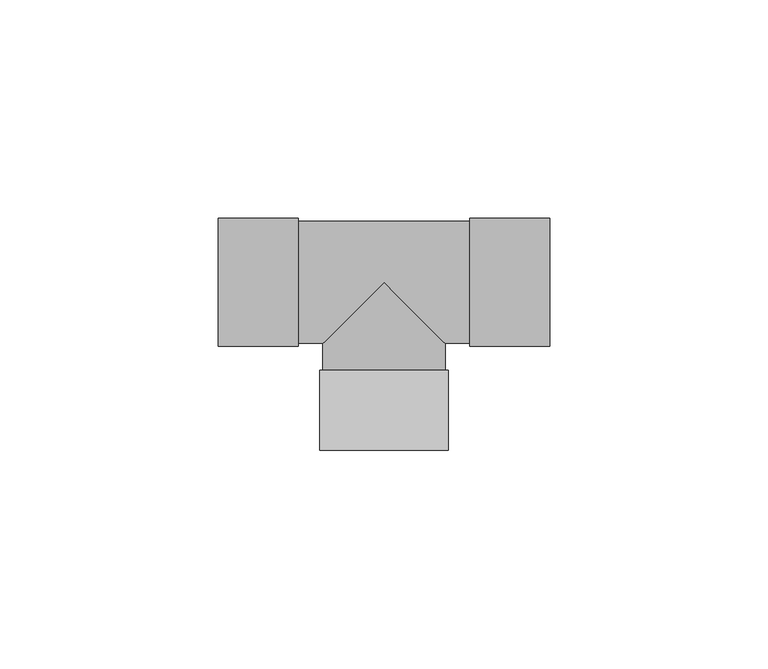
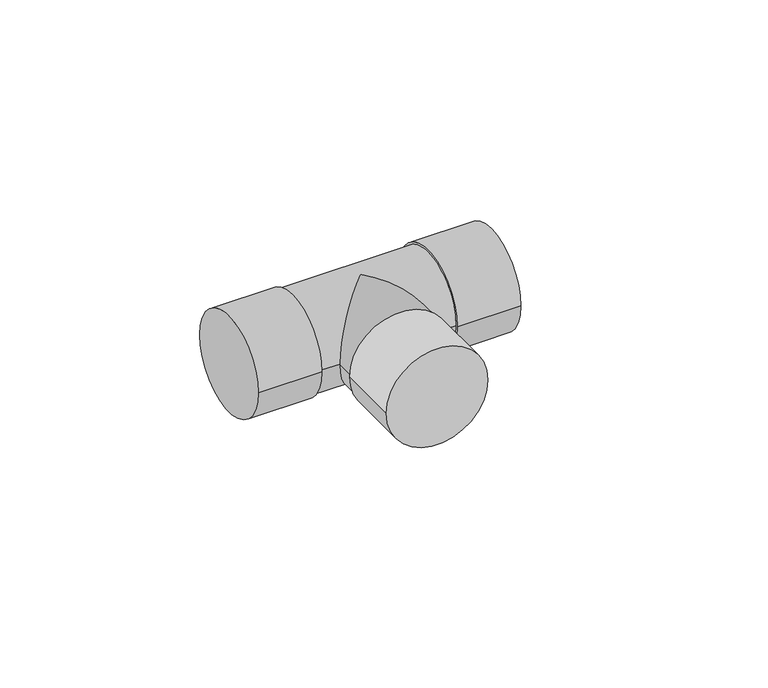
"""IFC4 building model written with IfcOpenShell, lengths in millimetres: pipe fitting geometry, Tê - Soldado - CU : Padrão."""

from ifc_helpers import new_model, si_unit, frame, origin, place, context, project, spatial, circle_curve, ellipse_curve, source, transform, mapped, element, save
from ifc_brep_helpers import plane_surface, cylinder_surface, advanced_brep


def pipe_fitting_ae0032d9(model_context):
    return source(origin(), model_context, "Body", "AdvancedBrep", [
        advanced_brep(
        [(14.7, -38.5, 0.0), (-14.7, -38.5, 0.0), (14.7, -20.1, 0.0), (-14.7, -20.1, 0.0), (14.0, -20.1, 0.0), (-14.0, -20.1, 0.0), (-38.0, -14.7, 0.0), (-38.0, 14.7, 0.0), (-19.6, -14.7, 0.0), (-19.6, 14.7, 0.0), (-19.6, -14.0, 0.0), (-19.6, 14.0, 0.0), (19.6, 14.0, 0.0), (-14.0, -14.0, 0.0), (0.0, 0.0, 14.0), (14.0, -14.0, 0.0), (19.6, -14.0, 0.0), (0.0, 0.0, -14.0), (19.6, -14.7, 0.0), (19.6, 14.7, 0.0), (38.0, -14.7, 0.0), (38.0, 14.7, 0.0)],
        [
            (0, 1, circle_curve(frame((0.0, -38.5, 0.0), z_axis=(0.0, -1.0, 0.0), x_axis=(-1.0, 0.0, 0.0)), 14.7)),
            (1, 0, circle_curve(frame((0.0, -38.5, 0.0), z_axis=(0.0, -1.0, 0.0), x_axis=(-1.0, 0.0, 0.0)), 14.7)),
            (2, 3, circle_curve(frame((0.0, -20.1, 0.0), z_axis=(0.0, 1.0, 0.0), x_axis=(-1.0, 0.0, 0.0)), 14.7)),
            (3, 2, circle_curve(frame((0.0, -20.1, 0.0), z_axis=(0.0, 1.0, 0.0), x_axis=(-1.0, 0.0, 0.0)), 14.7)),
            (4, 5, circle_curve(frame((0.0, -20.1, 0.0), z_axis=(0.0, -1.0, 0.0), x_axis=(1.0, 0.0, 0.0)), 14.0)),
            (5, 4, circle_curve(frame((0.0, -20.1, 0.0), z_axis=(0.0, -1.0, 0.0), x_axis=(1.0, 0.0, 0.0)), 14.0)),
            (0, 2),
            (3, 1),
            (6, 7, circle_curve(frame((-38.0, 0.0, 0.0), z_axis=(-1.0, 0.0, 0.0), x_axis=(0.0, 1.0, 0.0)), 14.7)),
            (7, 6, circle_curve(frame((-38.0, 0.0, 0.0), z_axis=(-1.0, 0.0, 0.0), x_axis=(0.0, 1.0, 0.0)), 14.7)),
            (8, 9, circle_curve(frame((-19.6, 0.0, 0.0), z_axis=(1.0, 0.0, 0.0), x_axis=(0.0, 1.0, 0.0)), 14.7)),
            (9, 8, circle_curve(frame((-19.6, 0.0, 0.0), z_axis=(1.0, 0.0, 0.0), x_axis=(0.0, 1.0, 0.0)), 14.7)),
            (10, 11, circle_curve(frame((-19.6, 0.0, 0.0), z_axis=(-1.0, 0.0, 0.0), x_axis=(0.0, 1.0, 0.0)), 14.0)),
            (11, 10, circle_curve(frame((-19.6, 0.0, 0.0), z_axis=(-1.0, 0.0, 0.0), x_axis=(0.0, 1.0, 0.0)), 14.0)),
            (6, 8),
            (9, 7),
            (12, 11),
            (10, 13),
            (13, 14, ellipse_curve(frame((0.0, 0.0, 0.0), z_axis=(-0.7071067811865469, 0.7071067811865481, 0.0), x_axis=(-0.707106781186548, -0.7071067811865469, 0.0)), 19.7989899, 14.0)),
            (14, 15, ellipse_curve(frame((0.0, 0.0, 0.0), z_axis=(0.7071067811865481, 0.7071067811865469, 0.0), x_axis=(-0.707106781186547, 0.7071067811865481, 0.0)), 19.7989899, 14.0)),
            (15, 16),
            (16, 12, circle_curve(frame((19.6, 0.0, 0.0), z_axis=(-1.0, 0.0, 0.0), x_axis=(0.0, 1.0, 0.0)), 14.0)),
            (12, 16, circle_curve(frame((19.6, 0.0, 0.0), z_axis=(-1.0, 0.0, 0.0), x_axis=(0.0, 1.0, 0.0)), 14.0)),
            (15, 17, ellipse_curve(frame((0.0, 0.0, 0.0), z_axis=(0.7071067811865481, 0.7071067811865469, 0.0), x_axis=(-0.707106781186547, 0.7071067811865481, 0.0)), 19.7989899, 14.0)),
            (17, 13, ellipse_curve(frame((0.0, 0.0, 0.0), z_axis=(-0.7071067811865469, 0.7071067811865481, 0.0), x_axis=(-0.707106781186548, -0.7071067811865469, 0.0)), 19.7989899, 14.0)),
            (18, 19, circle_curve(frame((19.6, 0.0, 0.0), z_axis=(-1.0, 0.0, 0.0), x_axis=(0.0, 1.0, 0.0)), 14.7)),
            (19, 18, circle_curve(frame((19.6, 0.0, 0.0), z_axis=(-1.0, 0.0, 0.0), x_axis=(0.0, 1.0, 0.0)), 14.7)),
            (20, 21, circle_curve(frame((38.0, 0.0, 0.0), z_axis=(1.0, 0.0, 0.0), x_axis=(0.0, 1.0, 0.0)), 14.7)),
            (21, 20, circle_curve(frame((38.0, 0.0, 0.0), z_axis=(1.0, 0.0, 0.0), x_axis=(0.0, 1.0, 0.0)), 14.7)),
            (18, 20),
            (21, 19),
            (4, 15),
            (13, 5),
        ],
        [
            plane_surface(frame((0.0, -38.5, 0.0), z_axis=(0.0, -1.0, 0.0), x_axis=(0.0, 0.0, 1.0))),
            plane_surface(frame((0.0, -20.1, 0.0), z_axis=(0.0, 1.0, 0.0), x_axis=(0.0, 0.0, 1.0))),
            cylinder_surface(frame((0.0, -38.5, 0.0), z_axis=(0.0, -1.0, 0.0), x_axis=(-1.0, 0.0, 0.0)), 14.7),
            plane_surface(frame((-38.0, 0.0, 0.0), z_axis=(-1.0, 0.0, 0.0), x_axis=(0.0, 0.0, 1.0))),
            plane_surface(frame((-19.6, 0.0, 0.0), z_axis=(1.0, 0.0, 0.0), x_axis=(0.0, 0.0, 1.0))),
            cylinder_surface(frame((-38.0, 0.0, 0.0), z_axis=(-1.0, 0.0, 0.0), x_axis=(0.0, 1.0, 0.0)), 14.7),
            cylinder_surface(frame((-19.6, 0.0, 0.0), z_axis=(-1.0, 0.0, 0.0), x_axis=(0.0, 1.0, 0.0)), 14.0),
            plane_surface(frame((19.6, 0.0, 0.0), z_axis=(-1.0, 0.0, 0.0), x_axis=(0.0, 0.0, 1.0))),
            plane_surface(frame((38.0, 0.0, 0.0), z_axis=(1.0, 0.0, 0.0), x_axis=(0.0, 0.0, 1.0))),
            cylinder_surface(frame((19.6, 0.0, 0.0), z_axis=(-1.0, 0.0, 0.0), x_axis=(0.0, 1.0, 0.0)), 14.7),
            cylinder_surface(frame((0.0, 0.0, 0.0), z_axis=(0.0, 1.0, 0.0), x_axis=(1.0, 0.0, 0.0)), 14.0),
        ],
        [
            (0, [[1, 2]]),
            (1, [[3, 4], [5, 6]]),
            (2, [[-1, 7, -4, 8]]),
            (2, [[-2, -8, -3, -7]]),
            (3, [[9, 10]]),
            (4, [[11, 12], [13, 14]]),
            (5, [[-9, 15, -12, 16]]),
            (5, [[-10, -16, -11, -15]]),
            (6, [[17, -13, 18, 19, 20, 21, 22]]),
            (6, [[-17, 23, -21, 24, 25, -18, -14]]),
            (7, [[26, 27], [-22, -23]]),
            (8, [[28, 29]]),
            (9, [[-26, 30, -29, 31]]),
            (9, [[-27, -31, -28, -30]]),
            (10, [[32, -20, -19, 33, -5]]),
            (10, [[-32, -6, -33, -25, -24]]),
        ],
    ),
    ])


if __name__ == "__main__":
    model = new_model("IFC4")
    model_context = context("Model", 3, world=origin())
    ifc_project = project(units=[si_unit("LENGTHUNIT", "METRE", prefix="MILLI")], contexts=[model_context])
    site = spatial("IfcSite", under=ifc_project)
    building = spatial("IfcBuilding", under=site)
    placement = place(None, origin())
    pipe_fitting_shape = pipe_fitting_ae0032d9(model_context)
    element("IfcPipeFitting", 1, ObjectType="Tê - Soldado - CU : Padrão", at=placement, inside=building, context=model_context, shape_type="MappedRepresentation", body=[
        mapped(pipe_fitting_shape, transform((0.0, 0.0, 0.0), x_axis=(1.0, 0.0, 0.0), y_axis=(0.0, 1.0, 0.0), z_axis=(0.0, 0.0, 1.0))),
    ])
    save(model, "model.ifc")
